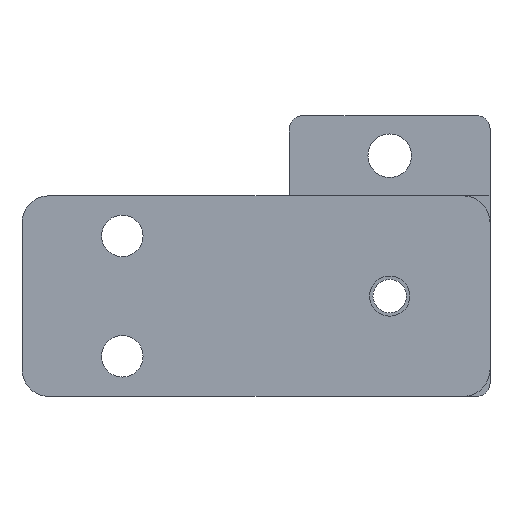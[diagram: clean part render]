
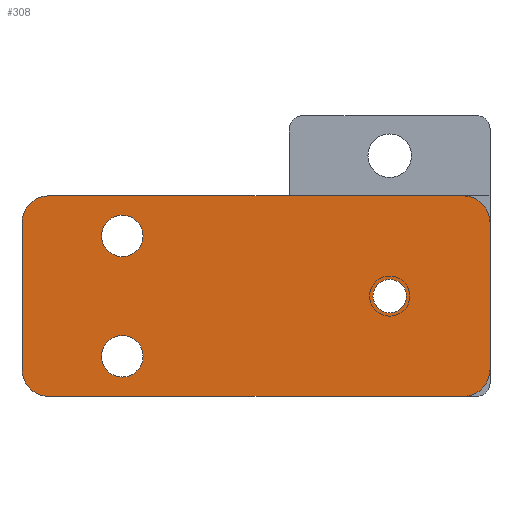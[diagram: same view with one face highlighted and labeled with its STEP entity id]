
A CAD part, front view. The second image highlights one B-rep face of the part: STEP entity #308.
In plain terms, the highlighted planar face has unit normal (0, -1, 0).
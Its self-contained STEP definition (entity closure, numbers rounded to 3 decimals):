
#1=CARTESIAN_POINT('',(15.,0.,-9.));
#2=DIRECTION('',(0.,1.,0.));
#3=DIRECTION('',(1.,0.,0.));
#4=AXIS2_PLACEMENT_3D('',#1,#2,#3);
#6=CARTESIAN_POINT('',(15.,0.,-9.));
#7=DIRECTION('',(0.,1.,0.));
#8=DIRECTION('',(-1.,0.,0.));
#9=AXIS2_PLACEMENT_3D('',#6,#7,#8);
#11=CARTESIAN_POINT('',(15.,0.,9.));
#12=DIRECTION('',(0.,1.,0.));
#13=DIRECTION('',(1.,0.,0.));
#14=AXIS2_PLACEMENT_3D('',#11,#12,#13);
#16=CARTESIAN_POINT('',(15.,0.,9.));
#17=DIRECTION('',(0.,1.,0.));
#18=DIRECTION('',(-1.,0.,0.));
#19=AXIS2_PLACEMENT_3D('',#16,#17,#18);
#21=CARTESIAN_POINT('',(55.,0.,0.));
#22=DIRECTION('',(0.,1.,0.));
#23=DIRECTION('',(1.,0.,0.));
#24=AXIS2_PLACEMENT_3D('',#21,#22,#23);
#26=CARTESIAN_POINT('',(55.,0.,0.));
#27=DIRECTION('',(0.,1.,0.));
#28=DIRECTION('',(-1.,0.,0.));
#29=AXIS2_PLACEMENT_3D('',#26,#27,#28);
#31=DIRECTION('',(0.,0.,-1.));
#32=VECTOR('',#31,22.);
#33=CARTESIAN_POINT('',(70.,0.,11.));
#34=LINE('',#33,#32);
#35=DIRECTION('',(-1.,0.,0.));
#36=VECTOR('',#35,62.);
#37=CARTESIAN_POINT('',(66.,0.,-15.));
#38=LINE('',#37,#36);
#39=DIRECTION('',(0.,0.,1.));
#40=VECTOR('',#39,22.);
#41=CARTESIAN_POINT('',(0.,0.,-11.));
#42=LINE('',#41,#40);
#43=DIRECTION('',(1.,0.,0.));
#44=VECTOR('',#43,62.);
#45=CARTESIAN_POINT('',(4.,0.,15.));
#46=LINE('',#45,#44);
#148=CARTESIAN_POINT('',(66.,0.,11.));
#149=DIRECTION('',(0.,-1.,0.));
#150=DIRECTION('',(1.,0.,0.));
#151=AXIS2_PLACEMENT_3D('',#148,#149,#150);
#166=CARTESIAN_POINT('',(4.,0.,11.));
#167=DIRECTION('',(0.,-1.,0.));
#168=DIRECTION('',(0.,0.,1.));
#169=AXIS2_PLACEMENT_3D('',#166,#167,#168);
#184=CARTESIAN_POINT('',(4.,0.,-11.));
#185=DIRECTION('',(0.,-1.,0.));
#186=DIRECTION('',(-1.,0.,0.));
#187=AXIS2_PLACEMENT_3D('',#184,#185,#186);
#202=CARTESIAN_POINT('',(66.,0.,-11.));
#203=DIRECTION('',(0.,-1.,0.));
#204=DIRECTION('',(0.,0.,-1.));
#205=AXIS2_PLACEMENT_3D('',#202,#203,#204);
#207=CARTESIAN_POINT('',(18.1,0.,-9.));
#208=CARTESIAN_POINT('',(11.9,0.,-9.));
#209=VERTEX_POINT('',#207);
#210=VERTEX_POINT('',#208);
#211=CARTESIAN_POINT('',(18.1,0.,9.));
#212=CARTESIAN_POINT('',(11.9,0.,9.));
#213=VERTEX_POINT('',#211);
#214=VERTEX_POINT('',#212);
#227=CARTESIAN_POINT('',(57.5,0.,0.));
#228=CARTESIAN_POINT('',(52.5,0.,0.));
#229=VERTEX_POINT('',#227);
#230=VERTEX_POINT('',#228);
#236=CARTESIAN_POINT('',(66.,0.,15.));
#238=VERTEX_POINT('',#236);
#241=CARTESIAN_POINT('',(70.,0.,11.));
#242=VERTEX_POINT('',#241);
#244=CARTESIAN_POINT('',(70.,0.,-11.));
#246=VERTEX_POINT('',#244);
#249=CARTESIAN_POINT('',(66.,0.,-15.));
#250=VERTEX_POINT('',#249);
#252=CARTESIAN_POINT('',(0.,0.,11.));
#254=VERTEX_POINT('',#252);
#257=CARTESIAN_POINT('',(4.,0.,15.));
#258=VERTEX_POINT('',#257);
#260=CARTESIAN_POINT('',(4.,0.,-15.));
#262=VERTEX_POINT('',#260);
#265=CARTESIAN_POINT('',(0.,0.,-11.));
#266=VERTEX_POINT('',#265);
#267=CARTESIAN_POINT('',(0.,0.,0.));
#268=DIRECTION('',(0.,1.,0.));
#269=DIRECTION('',(1.,0.,0.));
#270=AXIS2_PLACEMENT_3D('',#267,#268,#269);
#271=PLANE('',#270);
#273=ORIENTED_EDGE('',*,*,#272,.F.);
#275=ORIENTED_EDGE('',*,*,#274,.T.);
#277=ORIENTED_EDGE('',*,*,#276,.F.);
#279=ORIENTED_EDGE('',*,*,#278,.T.);
#281=ORIENTED_EDGE('',*,*,#280,.F.);
#283=ORIENTED_EDGE('',*,*,#282,.T.);
#285=ORIENTED_EDGE('',*,*,#284,.F.);
#287=ORIENTED_EDGE('',*,*,#286,.T.);
#288=EDGE_LOOP('',(#273,#275,#277,#279,#281,#283,#285,#287));
#289=FACE_OUTER_BOUND('',#288,.F.);
#291=ORIENTED_EDGE('',*,*,#290,.F.);
#293=ORIENTED_EDGE('',*,*,#292,.F.);
#294=EDGE_LOOP('',(#291,#293));
#295=FACE_BOUND('',#294,.F.);
#297=ORIENTED_EDGE('',*,*,#296,.F.);
#299=ORIENTED_EDGE('',*,*,#298,.F.);
#300=EDGE_LOOP('',(#297,#299));
#301=FACE_BOUND('',#300,.F.);
#303=ORIENTED_EDGE('',*,*,#302,.F.);
#305=ORIENTED_EDGE('',*,*,#304,.F.);
#306=EDGE_LOOP('',(#303,#305));
#307=FACE_BOUND('',#306,.F.);
#308=ADVANCED_FACE('',(#289,#295,#301,#307),#271,.F.);
#5=CIRCLE('',#4,3.1);
#10=CIRCLE('',#9,3.1);
#15=CIRCLE('',#14,3.1);
#20=CIRCLE('',#19,3.1);
#25=CIRCLE('',#24,2.5);
#30=CIRCLE('',#29,2.5);
#152=CIRCLE('',#151,4.);
#170=CIRCLE('',#169,4.);
#188=CIRCLE('',#187,4.);
#206=CIRCLE('',#205,4.);
#272=EDGE_CURVE('',#242,#238,#152,.T.);
#274=EDGE_CURVE('',#242,#246,#34,.T.);
#276=EDGE_CURVE('',#250,#246,#206,.T.);
#278=EDGE_CURVE('',#250,#262,#38,.T.);
#280=EDGE_CURVE('',#266,#262,#188,.T.);
#282=EDGE_CURVE('',#266,#254,#42,.T.);
#284=EDGE_CURVE('',#258,#254,#170,.T.);
#286=EDGE_CURVE('',#258,#238,#46,.T.);
#290=EDGE_CURVE('',#209,#210,#5,.T.);
#292=EDGE_CURVE('',#210,#209,#10,.T.);
#296=EDGE_CURVE('',#213,#214,#15,.T.);
#298=EDGE_CURVE('',#214,#213,#20,.T.);
#302=EDGE_CURVE('',#229,#230,#25,.T.);
#304=EDGE_CURVE('',#230,#229,#30,.T.);
